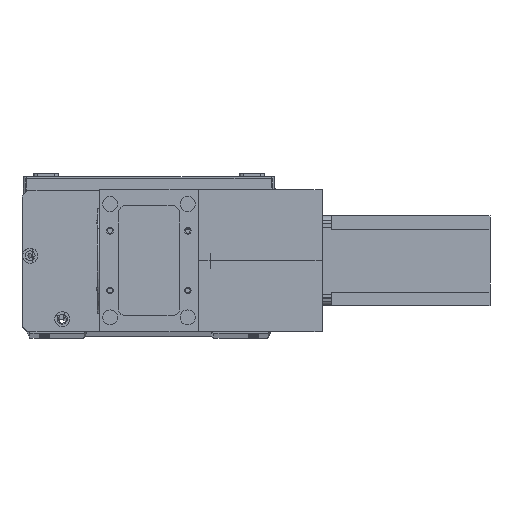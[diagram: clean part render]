
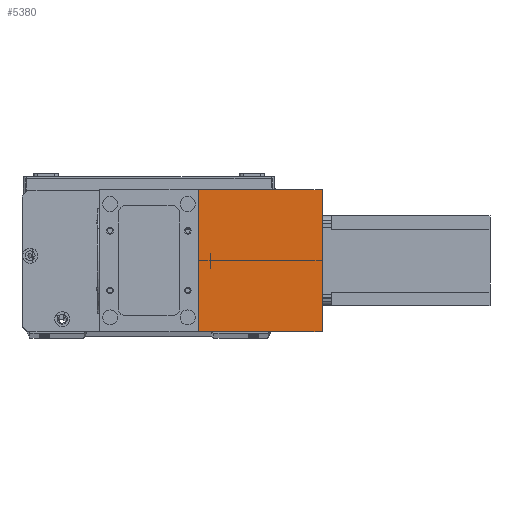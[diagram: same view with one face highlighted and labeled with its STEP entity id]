
A CAD part, top view. The second image highlights one B-rep face of the part: STEP entity #5380.
In plain terms, the highlighted planar face has unit normal (0, 0, 1) as drawn and (1, 0, 0) by its records, which use the part's own axes.
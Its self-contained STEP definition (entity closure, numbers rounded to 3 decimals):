
#925 = CARTESIAN_POINT ( 'NONE',  ( 82., 0., 83. ) ) ;
#1524 = CARTESIAN_POINT ( 'NONE',  ( 82., 95., 0. ) ) ;
#1780 = ORIENTED_EDGE ( 'NONE', *, *, #14421, .F. ) ;
#2285 = LINE ( 'NONE', #2830, #25969 ) ;
#2630 = DIRECTION ( 'NONE',  ( 0., 0., -1. ) ) ;
#2830 = CARTESIAN_POINT ( 'NONE',  ( 82., 95., 83. ) ) ;
#3877 = FACE_OUTER_BOUND ( 'NONE', #10202, .T. ) ;
#4085 = LINE ( 'NONE', #23069, #21801 ) ;
#5380 = ADVANCED_FACE ( 'NONE', ( #3877 ), #20963, .F. ) ;
#6018 = LINE ( 'NONE', #11419, #11444 ) ;
#6129 = CARTESIAN_POINT ( 'NONE',  ( 82., 0., 0. ) ) ;
#7251 = AXIS2_PLACEMENT_3D ( 'NONE', #27589, #19819, #19787 ) ;
#7425 = CARTESIAN_POINT ( 'NONE',  ( 82., 95., 83. ) ) ;
#10121 = LINE ( 'NONE', #925, #27473 ) ;
#10202 = EDGE_LOOP ( 'NONE', ( #23305, #1780, #20175, #25489 ) ) ;
#10568 = VERTEX_POINT ( 'NONE', #27705 ) ;
#11099 = DIRECTION ( 'NONE',  ( 0., 1., 0. ) ) ;
#11419 = CARTESIAN_POINT ( 'NONE',  ( 82., 0., 0. ) ) ;
#11444 = VECTOR ( 'NONE', #11099, 1000. ) ;
#11621 = VERTEX_POINT ( 'NONE', #1524 ) ;
#11685 = EDGE_CURVE ( 'NONE', #10568, #19149, #4085, .T. ) ;
#13839 = EDGE_CURVE ( 'NONE', #19149, #11621, #6018, .T. ) ;
#14421 = EDGE_CURVE ( 'NONE', #28473, #11621, #2285, .T. ) ;
#17290 = DIRECTION ( 'NONE',  ( 0., 1., 0. ) ) ;
#17947 = EDGE_CURVE ( 'NONE', #10568, #28473, #10121, .T. ) ;
#19149 = VERTEX_POINT ( 'NONE', #6129 ) ;
#19787 = DIRECTION ( 'NONE',  ( 0., 0., 1. ) ) ;
#19819 = DIRECTION ( 'NONE',  ( -1., 0., 0. ) ) ;
#20175 = ORIENTED_EDGE ( 'NONE', *, *, #17947, .F. ) ;
#20963 = PLANE ( 'NONE',  #7251 ) ;
#21801 = VECTOR ( 'NONE', #23768, 1000. ) ;
#23069 = CARTESIAN_POINT ( 'NONE',  ( 82., 0., 83. ) ) ;
#23305 = ORIENTED_EDGE ( 'NONE', *, *, #13839, .T. ) ;
#23768 = DIRECTION ( 'NONE',  ( 0., 0., -1. ) ) ;
#25489 = ORIENTED_EDGE ( 'NONE', *, *, #11685, .T. ) ;
#25969 = VECTOR ( 'NONE', #2630, 1000. ) ;
#27473 = VECTOR ( 'NONE', #17290, 1000. ) ;
#27589 = CARTESIAN_POINT ( 'NONE',  ( 82., 0., 83. ) ) ;
#27705 = CARTESIAN_POINT ( 'NONE',  ( 82., 0., 83. ) ) ;
#28473 = VERTEX_POINT ( 'NONE', #7425 ) ;
